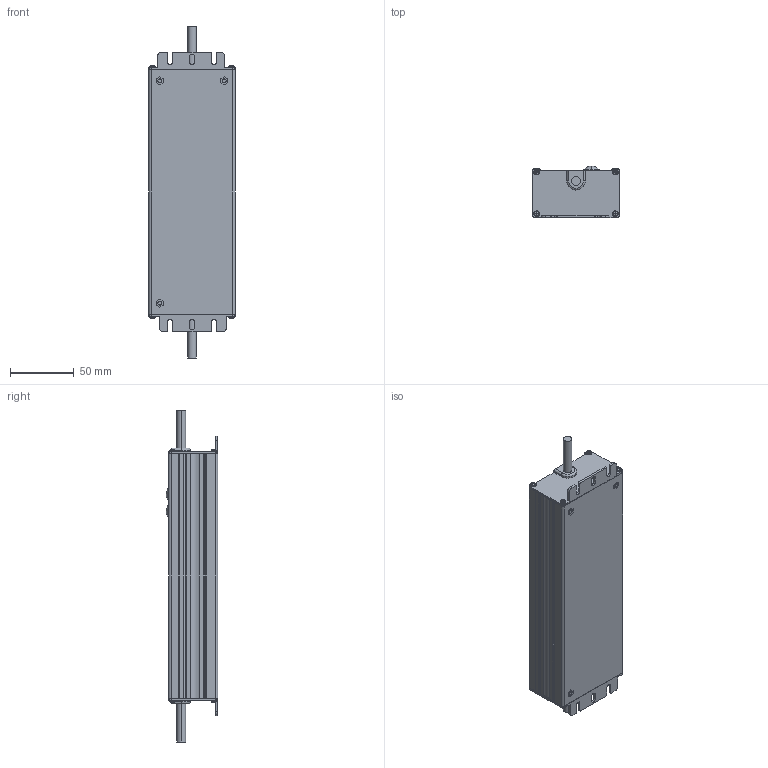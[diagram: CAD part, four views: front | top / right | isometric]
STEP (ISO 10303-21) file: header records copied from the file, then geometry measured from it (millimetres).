
FILE_DESCRIPTION((''),'2;1');
FILE_NAME('LNE-XXV100W_120W_AXA_ASM_ASM_ASM','2017-10-13T',('LEON.YEH'),(''),'PRO/ENGINEER BY PARAMETRIC TECHNOLOGY CORPORATION, 2010280','PRO/ENGINEER BY PARAMETRIC TECHNOLOGY CORPORATION, 2010280','');
FILE_SCHEMA(('CONFIG_CONTROL_DESIGN'));
Length unit declared in the file: millimetre
Products named in the file (12): LHE-185W_CHASSIS__W___ANY_1_7; LHE-185W_COVER__W___ANY_1_7; RUBBER_SEAL__W___ANY_1_6; M3_SCREW_BAR__W___ANY_1_6; FIX_BOARD-AC-NEW__W___ANY_1_6; LABEL_4_9; SCREW_02__W___ANY_1_6; PLUG-15__W___ANY_1_6; GM-3IV0-NEW__W___ANY_3_6; PCB-185W__W___ANY_1_9; LNE-120WAXA_ASM_ASM_6_ASM; LNE-XXV100W_120W_AXA_ASM_ASM_ASM
Assembly tree (24 placements, depth 3):
  LNE-XXV100W_120W_AXA_ASM_ASM_ASM
    LNE-120WAXA_ASM_ASM_6_ASM
      LHE-185W_CHASSIS__W___ANY_1_7
      LHE-185W_COVER__W___ANY_1_7
      RUBBER_SEAL__W___ANY_1_6  x2
      M3_SCREW_BAR__W___ANY_1_6  x3
      FIX_BOARD-AC-NEW__W___ANY_1_6  x2
      LABEL_4_9
      SCREW_02__W___ANY_1_6  x8
      PLUG-15__W___ANY_1_6  x2
      GM-3IV0-NEW__W___ANY_3_6  x2
      PCB-185W__W___ANY_1_9
Bounding box: 68 x 40.6 x 261.4 mm (x, y, z)
Volume: 120703 mm3; surface area: 154640.8 mm2
Topology: 23 solids, 23 shells, 1048 faces, 2629 edges, 1672 vertices
Faces by surface type: plane 381, cone 300, cylinder 299, torus 48, bspline 20
Entity records: 14707 total; most frequent: CARTESIAN_POINT 2863, DIRECTION 2629, ORIENTED_EDGE 2346, EDGE_CURVE 1173, AXIS2_PLACEMENT_3D 1003, VERTEX_POINT 787, VECTOR 623, LINE 623
